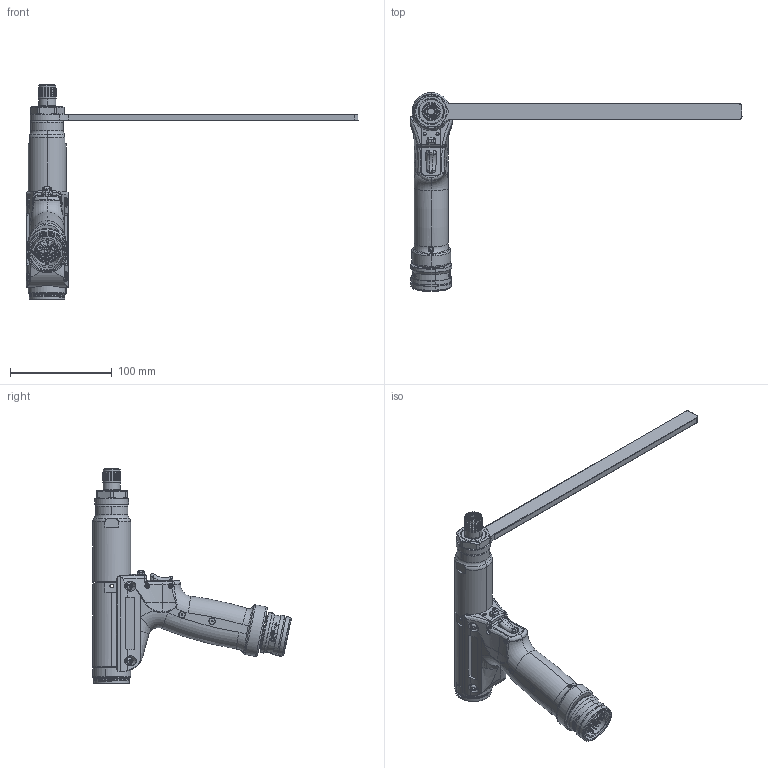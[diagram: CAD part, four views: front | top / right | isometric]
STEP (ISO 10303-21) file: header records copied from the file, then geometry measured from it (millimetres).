
FILE_DESCRIPTION (( 'STEP AP214' ), '1' );
FILE_NAME ('AEP4A12011BQ, AEP4A12014BQ.STEP', '2016-04-14T23:34:32', ( 'AIMCO' ), ( '' ), 'SwSTEP 2.0', 'SolidWorks 2016', '' );
FILE_SCHEMA (( 'AUTOMOTIVE_DESIGN' ));
Length unit declared in the file: inch
Products named in the file (1): AEP4A12011BQ, AEP4A12014BQ
Bounding box: 325.55 x 194.82 x 211.65 mm (x, y, z)
Surface area: 81069.7 mm2 (no closed solid volume)
Topology: 0 solids, 87 shells, 816 faces, 3228 edges, 2454 vertices
Faces by surface type: plane 261, cylinder 245, torus 135, cone 84, bspline 75, sphere 16
Entity records: 52304 total; most frequent: CARTESIAN_POINT 15876, DIRECTION 5335, ORIENTED_EDGE 4688, EDGE_CURVE 3212, VERTEX_POINT 2448, AXIS2_PLACEMENT_3D 1870, LINE 1595, VECTOR 1595
